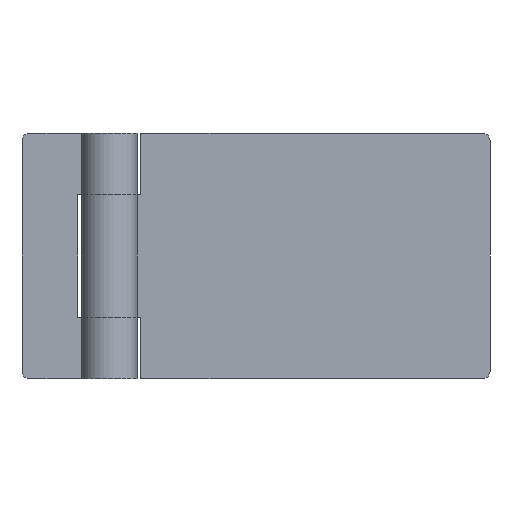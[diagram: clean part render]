
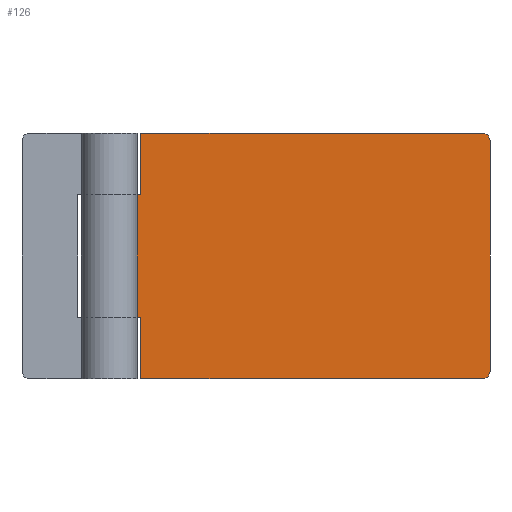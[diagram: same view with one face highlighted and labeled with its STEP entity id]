
A CAD part, front view. The second image highlights one B-rep face of the part: STEP entity #126.
In plain terms, the highlighted planar face has unit normal (0, -1, 0).
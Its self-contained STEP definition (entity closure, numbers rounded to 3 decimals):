
#1 = VERTEX_POINT ( 'NONE', #975 ) ;
#14 = AXIS2_PLACEMENT_3D ( 'NONE', #810, #801, #1157 ) ;
#33 = ORIENTED_EDGE ( 'NONE', *, *, #945, .T. ) ;
#72 = LINE ( 'NONE', #1526, #629 ) ;
#96 = EDGE_LOOP ( 'NONE', ( #1411, #896, #978, #1016, #843, #196, #33, #1158, #458, #1128 ) ) ;
#111 = DIRECTION ( 'NONE',  ( 1., 0., 0. ) ) ;
#120 = CARTESIAN_POINT ( 'NONE',  ( 0., 4., 46.5 ) ) ;
#125 = LINE ( 'NONE', #790, #596 ) ;
#126 = ADVANCED_FACE ( 'NONE', ( #771 ), #1256, .F. ) ;
#167 = DIRECTION ( 'NONE',  ( 0., -1., 0. ) ) ;
#196 = ORIENTED_EDGE ( 'NONE', *, *, #537, .T. ) ;
#198 = LINE ( 'NONE', #922, #1012 ) ;
#234 = VERTEX_POINT ( 'NONE', #1169 ) ;
#246 = DIRECTION ( 'NONE',  ( 0., 1., 0. ) ) ;
#288 = VERTEX_POINT ( 'NONE', #1053 ) ;
#318 = DIRECTION ( 'NONE',  ( 1., 0., 0. ) ) ;
#319 = EDGE_CURVE ( 'NONE', #670, #960, #566, .T. ) ;
#369 = DIRECTION ( 'NONE',  ( -1., 0., 0. ) ) ;
#378 = EDGE_CURVE ( 'NONE', #1, #234, #758, .T. ) ;
#384 = LINE ( 'NONE', #1241, #1293 ) ;
#450 = VERTEX_POINT ( 'NONE', #451 ) ;
#451 = CARTESIAN_POINT ( 'NONE',  ( 0., 4., 46.5 ) ) ;
#458 = ORIENTED_EDGE ( 'NONE', *, *, #1190, .T. ) ;
#478 = CARTESIAN_POINT ( 'NONE',  ( 8., 4., 62. ) ) ;
#483 = VERTEX_POINT ( 'NONE', #606 ) ;
#507 = CARTESIAN_POINT ( 'NONE',  ( 8., 4., 0. ) ) ;
#529 = DIRECTION ( 'NONE',  ( 0., 0., -1. ) ) ;
#537 = EDGE_CURVE ( 'NONE', #1294, #483, #125, .T. ) ;
#566 = LINE ( 'NONE', #1395, #572 ) ;
#572 = VECTOR ( 'NONE', #1058, 1000. ) ;
#586 = VERTEX_POINT ( 'NONE', #661 ) ;
#596 = VECTOR ( 'NONE', #1355, 1000. ) ;
#606 = CARTESIAN_POINT ( 'NONE',  ( 8., 4., 46.5 ) ) ;
#610 = LINE ( 'NONE', #713, #1015 ) ;
#629 = VECTOR ( 'NONE', #689, 1000. ) ;
#661 = CARTESIAN_POINT ( 'NONE',  ( 96., 4., 2. ) ) ;
#670 = VERTEX_POINT ( 'NONE', #1173 ) ;
#689 = DIRECTION ( 'NONE',  ( 0., 0., -1. ) ) ;
#701 = EDGE_CURVE ( 'NONE', #288, #586, #1489, .T. ) ;
#713 = CARTESIAN_POINT ( 'NONE',  ( 0., 4., 0. ) ) ;
#720 = EDGE_CURVE ( 'NONE', #1294, #234, #198, .T. ) ;
#728 = AXIS2_PLACEMENT_3D ( 'NONE', #797, #167, #1279 ) ;
#752 = VERTEX_POINT ( 'NONE', #818 ) ;
#758 = CIRCLE ( 'NONE', #728, 2. ) ;
#771 = FACE_OUTER_BOUND ( 'NONE', #96, .T. ) ;
#787 = EDGE_CURVE ( 'NONE', #450, #752, #72, .T. ) ;
#790 = CARTESIAN_POINT ( 'NONE',  ( 8., 4., 62. ) ) ;
#797 = CARTESIAN_POINT ( 'NONE',  ( 94., 4., 60. ) ) ;
#801 = DIRECTION ( 'NONE',  ( 0., -1., 0. ) ) ;
#810 = CARTESIAN_POINT ( 'NONE',  ( 94., 4., 2. ) ) ;
#818 = CARTESIAN_POINT ( 'NONE',  ( 0., 4., 15.5 ) ) ;
#843 = ORIENTED_EDGE ( 'NONE', *, *, #720, .F. ) ;
#857 = VECTOR ( 'NONE', #369, 1000. ) ;
#891 = EDGE_CURVE ( 'NONE', #960, #288, #610, .T. ) ;
#896 = ORIENTED_EDGE ( 'NONE', *, *, #701, .T. ) ;
#922 = CARTESIAN_POINT ( 'NONE',  ( 0., 4., 62. ) ) ;
#945 = EDGE_CURVE ( 'NONE', #483, #450, #1218, .T. ) ;
#960 = VERTEX_POINT ( 'NONE', #507 ) ;
#975 = CARTESIAN_POINT ( 'NONE',  ( 96., 4., 60. ) ) ;
#978 = ORIENTED_EDGE ( 'NONE', *, *, #1348, .F. ) ;
#986 = DIRECTION ( 'NONE',  ( 0., 0., 1. ) ) ;
#1012 = VECTOR ( 'NONE', #1540, 1000. ) ;
#1015 = VECTOR ( 'NONE', #111, 1000. ) ;
#1016 = ORIENTED_EDGE ( 'NONE', *, *, #378, .T. ) ;
#1053 = CARTESIAN_POINT ( 'NONE',  ( 94., 4., 0. ) ) ;
#1058 = DIRECTION ( 'NONE',  ( 0., 0., -1. ) ) ;
#1064 = AXIS2_PLACEMENT_3D ( 'NONE', #1232, #246, #986 ) ;
#1128 = ORIENTED_EDGE ( 'NONE', *, *, #319, .T. ) ;
#1157 = DIRECTION ( 'NONE',  ( 0., 0., 1. ) ) ;
#1158 = ORIENTED_EDGE ( 'NONE', *, *, #787, .T. ) ;
#1169 = CARTESIAN_POINT ( 'NONE',  ( 94., 4., 62. ) ) ;
#1173 = CARTESIAN_POINT ( 'NONE',  ( 8., 4., 15.5 ) ) ;
#1190 = EDGE_CURVE ( 'NONE', #752, #670, #1412, .T. ) ;
#1218 = LINE ( 'NONE', #120, #857 ) ;
#1232 = CARTESIAN_POINT ( 'NONE',  ( 0., 4., 62. ) ) ;
#1241 = CARTESIAN_POINT ( 'NONE',  ( 96., 4., 62. ) ) ;
#1256 = PLANE ( 'NONE',  #1064 ) ;
#1279 = DIRECTION ( 'NONE',  ( 0., 0., 1. ) ) ;
#1293 = VECTOR ( 'NONE', #529, 1000. ) ;
#1294 = VERTEX_POINT ( 'NONE', #478 ) ;
#1348 = EDGE_CURVE ( 'NONE', #1, #586, #384, .T. ) ;
#1355 = DIRECTION ( 'NONE',  ( 0., 0., -1. ) ) ;
#1395 = CARTESIAN_POINT ( 'NONE',  ( 8., 4., 62. ) ) ;
#1411 = ORIENTED_EDGE ( 'NONE', *, *, #891, .T. ) ;
#1412 = LINE ( 'NONE', #1525, #1529 ) ;
#1489 = CIRCLE ( 'NONE', #14, 2. ) ;
#1525 = CARTESIAN_POINT ( 'NONE',  ( 0., 4., 15.5 ) ) ;
#1526 = CARTESIAN_POINT ( 'NONE',  ( 0., 4., 62. ) ) ;
#1529 = VECTOR ( 'NONE', #318, 1000. ) ;
#1540 = DIRECTION ( 'NONE',  ( 1., 0., 0. ) ) ;
